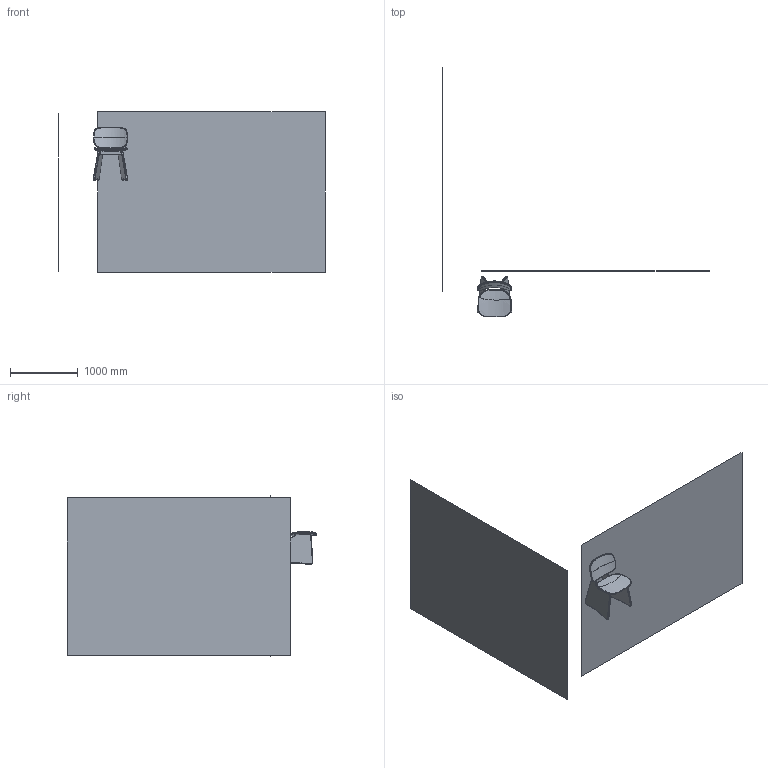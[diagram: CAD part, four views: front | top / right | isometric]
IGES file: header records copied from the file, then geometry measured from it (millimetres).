
Global section: file name: C:\Users\market02\Desktop\RYAN\FMERICH050_CHAISE_CHAIR_MERINGUE.igs; native system: Rhinoceros ( Dec 14 2021 ); preprocessor: Trout Lake IGES 012 Dec 14 2021; date: 220614.084703; units: millimetre
Bounding box: 3915.25 x 3664.11 x 2364.42 mm (x, y, z)
Surface area: 17246644.7 mm2 (no closed solid volume)
Topology: 0 solids, 0 shells, 73 faces, 3529 edges, 3525 vertices
Faces by surface type: bspline 73
